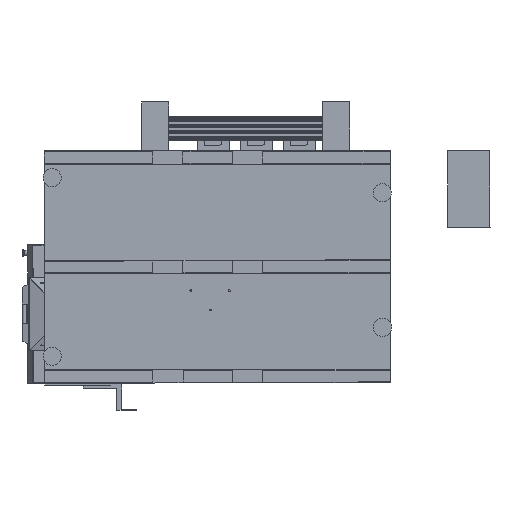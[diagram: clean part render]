
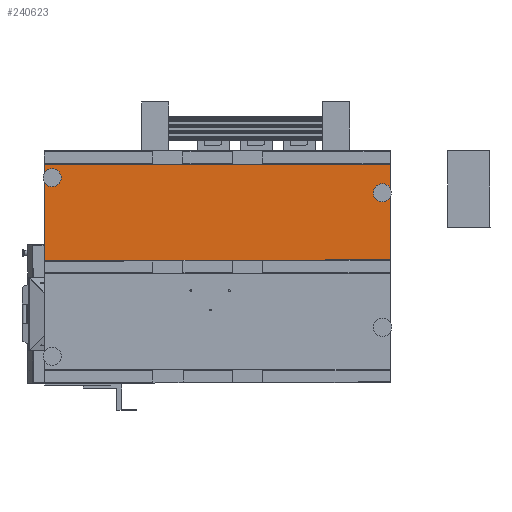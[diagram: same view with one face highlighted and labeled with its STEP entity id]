
A CAD part, front view. The second image highlights one B-rep face of the part: STEP entity #240623.
In plain terms, the highlighted planar face has unit normal (0, -1, 0).
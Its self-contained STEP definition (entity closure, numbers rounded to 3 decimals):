
#1956 = ORIENTED_EDGE ( 'NONE', *, *, #137055, .F. ) ;
#5132 = AXIS2_PLACEMENT_3D ( 'NONE', #213992, #155822, #36801 ) ;
#8928 = DIRECTION ( 'NONE',  ( -1., 0., 0. ) ) ;
#11158 = CIRCLE ( 'NONE', #217955, 0.6 ) ;
#15960 = VERTEX_POINT ( 'NONE', #128919 ) ;
#17046 = DIRECTION ( 'NONE',  ( 0., -1., 0. ) ) ;
#24001 = VECTOR ( 'NONE', #234360, 39.37 ) ;
#25961 = DIRECTION ( 'NONE',  ( -1., 0., 0. ) ) ;
#27686 = EDGE_CURVE ( 'NONE', #178669, #179760, #240719, .T. ) ;
#31190 = ORIENTED_EDGE ( 'NONE', *, *, #174066, .F. ) ;
#35141 = DIRECTION ( 'NONE',  ( -1., 0., 0. ) ) ;
#36801 = DIRECTION ( 'NONE',  ( -1., 0., 0. ) ) ;
#38297 = EDGE_LOOP ( 'NONE', ( #170095, #176421, #52023, #186473 ) ) ;
#40883 = EDGE_CURVE ( 'NONE', #15960, #247094, #78020, .T. ) ;
#42239 = CARTESIAN_POINT ( 'NONE',  ( -11.826, 5.118, 0.678 ) ) ;
#42846 = CARTESIAN_POINT ( 'NONE',  ( -11.226, 5.118, 0.678 ) ) ;
#48914 = FACE_BOUND ( 'NONE', #126305, .T. ) ;
#52023 = ORIENTED_EDGE ( 'NONE', *, *, #104233, .T. ) ;
#57033 = AXIS2_PLACEMENT_3D ( 'NONE', #113611, #149885, #8928 ) ;
#69373 = CIRCLE ( 'NONE', #57033, 0.6 ) ;
#78020 = LINE ( 'NONE', #137591, #186125 ) ;
#80971 = VERTEX_POINT ( 'NONE', #81927 ) ;
#81927 = CARTESIAN_POINT ( 'NONE',  ( -10.626, 5.118, 0.678 ) ) ;
#87713 = FACE_OUTER_BOUND ( 'NONE', #38297, .T. ) ;
#88975 = CARTESIAN_POINT ( 'NONE',  ( 31.785, 5.118, -22.531 ) ) ;
#93369 = CARTESIAN_POINT ( 'NONE',  ( -11.226, 5.118, 0.678 ) ) ;
#94300 = CARTESIAN_POINT ( 'NONE',  ( 74.176, 5.118, -3.282 ) ) ;
#95734 = VERTEX_POINT ( 'NONE', #126674 ) ;
#98504 = EDGE_CURVE ( 'NONE', #179760, #178669, #69373, .T. ) ;
#100096 = ORIENTED_EDGE ( 'NONE', *, *, #27686, .F. ) ;
#101075 = DIRECTION ( 'NONE',  ( 0., -1., 0. ) ) ;
#104233 = EDGE_CURVE ( 'NONE', #176392, #247094, #236927, .T. ) ;
#113611 = CARTESIAN_POINT ( 'NONE',  ( 74.776, 5.118, -3.282 ) ) ;
#115995 = EDGE_CURVE ( 'NONE', #95734, #176392, #120892, .T. ) ;
#120892 = LINE ( 'NONE', #199768, #125787 ) ;
#124590 = CIRCLE ( 'NONE', #149316, 0.6 ) ;
#125003 = EDGE_CURVE ( 'NONE', #15960, #95734, #177196, .T. ) ;
#125787 = VECTOR ( 'NONE', #142849, 39.37 ) ;
#126305 = EDGE_LOOP ( 'NONE', ( #31190, #1956 ) ) ;
#126674 = CARTESIAN_POINT ( 'NONE',  ( 76.773, 5.118, 4.412 ) ) ;
#128919 = CARTESIAN_POINT ( 'NONE',  ( 76.784, 5.118, -20.975 ) ) ;
#131384 = CARTESIAN_POINT ( 'NONE',  ( -13.216, 5.118, -21.016 ) ) ;
#137055 = EDGE_CURVE ( 'NONE', #80971, #170811, #11158, .T. ) ;
#137591 = CARTESIAN_POINT ( 'NONE',  ( 83.009, 5.118, -20.972 ) ) ;
#138693 = CARTESIAN_POINT ( 'NONE',  ( -13.201, 5.118, -52.781 ) ) ;
#142849 = DIRECTION ( 'NONE',  ( -1., 0., 0. ) ) ;
#149316 = AXIS2_PLACEMENT_3D ( 'NONE', #93369, #17046, #35141 ) ;
#149798 = DIRECTION ( 'NONE',  ( -1., 0., 0. ) ) ;
#149885 = DIRECTION ( 'NONE',  ( 0., -1., 0. ) ) ;
#152132 = EDGE_LOOP ( 'NONE', ( #100096, #194823 ) ) ;
#155822 = DIRECTION ( 'NONE',  ( 0., -1., 0. ) ) ;
#156977 = DIRECTION ( 'NONE',  ( -1., 0., 0. ) ) ;
#157782 = DIRECTION ( 'NONE',  ( 0., 0., 1. ) ) ;
#166639 = PLANE ( 'NONE',  #211413 ) ;
#170095 = ORIENTED_EDGE ( 'NONE', *, *, #125003, .T. ) ;
#170811 = VERTEX_POINT ( 'NONE', #42239 ) ;
#171753 = VECTOR ( 'NONE', #157782, 39.37 ) ;
#174066 = EDGE_CURVE ( 'NONE', #170811, #80971, #124590, .T. ) ;
#176392 = VERTEX_POINT ( 'NONE', #253585 ) ;
#176421 = ORIENTED_EDGE ( 'NONE', *, *, #115995, .T. ) ;
#177196 = LINE ( 'NONE', #256050, #171753 ) ;
#178669 = VERTEX_POINT ( 'NONE', #94300 ) ;
#179760 = VERTEX_POINT ( 'NONE', #249501 ) ;
#186125 = VECTOR ( 'NONE', #156977, 39.37 ) ;
#186473 = ORIENTED_EDGE ( 'NONE', *, *, #40883, .F. ) ;
#194823 = ORIENTED_EDGE ( 'NONE', *, *, #98504, .F. ) ;
#199768 = CARTESIAN_POINT ( 'NONE',  ( 82.998, 5.118, 4.414 ) ) ;
#211413 = AXIS2_PLACEMENT_3D ( 'NONE', #88975, #245507, #149798 ) ;
#213992 = CARTESIAN_POINT ( 'NONE',  ( 74.776, 5.118, -3.282 ) ) ;
#217955 = AXIS2_PLACEMENT_3D ( 'NONE', #42846, #101075, #25961 ) ;
#226115 = FACE_BOUND ( 'NONE', #152132, .T. ) ;
#234360 = DIRECTION ( 'NONE',  ( 0., 0., -1. ) ) ;
#236927 = LINE ( 'NONE', #138693, #24001 ) ;
#240623 = ADVANCED_FACE ( 'NONE', ( #226115, #48914, #87713 ), #166639, .F. ) ;
#240719 = CIRCLE ( 'NONE', #5132, 0.6 ) ;
#245507 = DIRECTION ( 'NONE',  ( 0., 1., 0. ) ) ;
#247094 = VERTEX_POINT ( 'NONE', #131384 ) ;
#249501 = CARTESIAN_POINT ( 'NONE',  ( 75.376, 5.118, -3.282 ) ) ;
#253585 = CARTESIAN_POINT ( 'NONE',  ( -13.227, 5.118, 4.37 ) ) ;
#256050 = CARTESIAN_POINT ( 'NONE',  ( 76.771, 5.118, 7.719 ) ) ;
